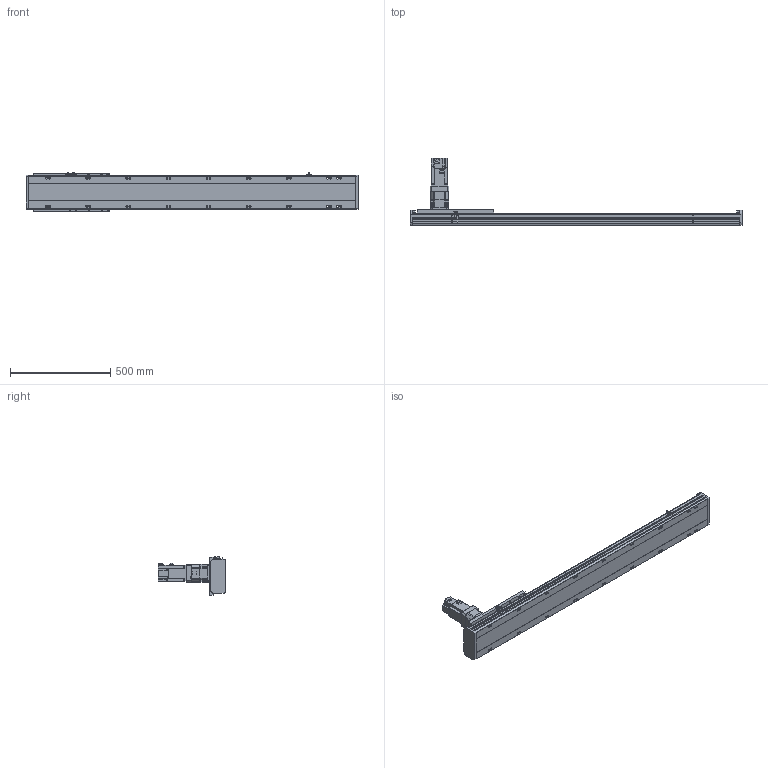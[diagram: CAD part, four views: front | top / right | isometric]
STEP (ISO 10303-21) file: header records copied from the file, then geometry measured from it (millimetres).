
FILE_DESCRIPTION(/* description */ ('STEP AP203'),/* implementation_level */ '2;1');
FILE_NAME(/* name */ 'SHS17A-L13-S1200-BC-T75-C1-N(0)',/* time_stamp */ '2023-03-27T08:57:28+02:00',/* author */ ('License CC BY-ND 4.0'),/* organization */ ('CADENAS'),/* preprocessor_version */ 'ST-DEVELOPER v19.3',/* originating_system */ 'PARTsolutions',/* authorisation */ ' ');
FILE_SCHEMA (('CONFIG_CONTROL_DESIGN'));
Length unit declared in the file: millimetre
Products named in the file (7): SHS17A-L13-S1200-BC-T75-C1-N(0); PSC140-sensor; SHS17A-S1200(0)_body2; T75-p1; SHS17A-S1200_body3; SHS17A-S1200-C1(0)_slider; SHS17A-S1200-C1(0)_body
Assembly tree (13 placements, depth 2):
  SHS17A-L13-S1200-BC-T75-C1-N(0)
    PSC140-sensor  x3
    SHS17A-S1200(0)_body2  x6
    T75-p1
    SHS17A-S1200_body3
    SHS17A-S1200-C1(0)_slider
    SHS17A-S1200-C1(0)_body
Bounding box: 1654 x 333.8 x 193.4 mm (x, y, z)
Volume: 13149277.1 mm3; surface area: 1573665.6 mm2
Topology: 13 solids, 13 shells, 1944 faces, 4916 edges, 3205 vertices
Faces by surface type: plane 1286, cylinder 583, cone 72, torus 3
Full cylindrical faces by diameter (mm): 2.8 x3, 4.134 x24, 4.5 x2, 4.6 x3, 4.917 x15, 5.5 x48, 6 x7, 6.5 x24, 6.647 x26, 6.8 x9, 8 x3, 8.5 x18, 10 x28, 11 x4, 14 x18, 22 x1, 24 x1, 24.2 x1, 28 x1, 28.2 x1, 28.8 x1, 29.8 x1, 48.542 x1, 68 x1, 70 x1, 78 x1, 80 x2
Entity records: 34878 total; most frequent: CARTESIAN_POINT 6558, DIRECTION 5773, ORIENTED_EDGE 5508, EDGE_CURVE 2754, AXIS2_PLACEMENT_3D 2004, VERTEX_POINT 1933, LINE 1765, VECTOR 1765
